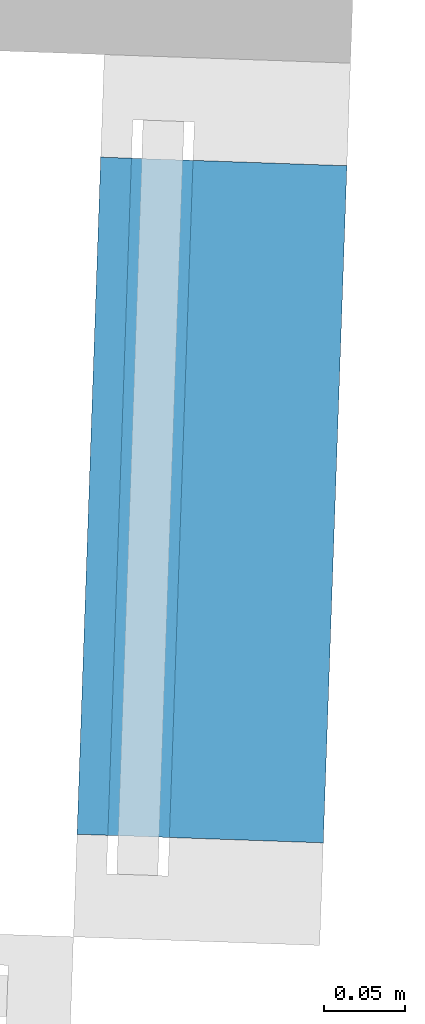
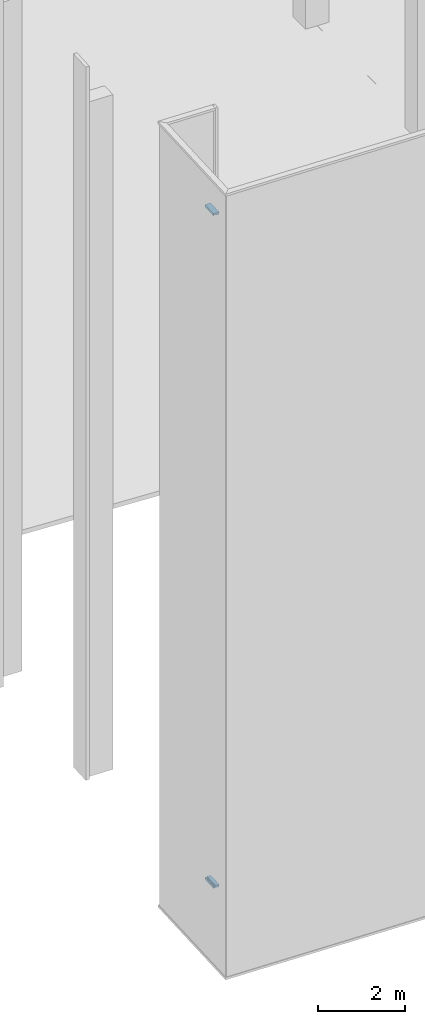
# One storey, part 13 of 44: 2 members, 1 element without a shape of its own.
"""IFC2X3 building model written with IfcOpenShell, lengths in feet."""

import ifcopenshell
import ifcopenshell.guid

model = None  # the IFC model being written
_history = None  # IfcOwnerHistory: only IFC2X3 demands one
_inside = {}  # id of a spatial element -> (the spatial element, [elements in it])
_under = {}  # id of a project, library or spatial element -> (it, [spatial elements below it])
_declared = {}  # id of a project -> (the project, [libraries it declares])
_typed = {}  # id of a type object -> (the type object, [elements of that type])
_made_of = {}  # id of a material, layer set ... -> (it, [elements and type objects made of it])


def new_model(schema):
    """Start an empty IFC model of exactly this schema.

    Asked for "IFC4X3", IfcOpenShell would pick the latest addendum, in which some entities
    have other attributes; the version numbers below select the first issue.
    IFC2X3 requires an IfcOwnerHistory on every rooted entity: one is made here for all.
    """
    global model, _history
    if schema == "IFC4X3":
        model = ifcopenshell.file(schema_version=(4, 3, 0, 0))
    else:
        model = ifcopenshell.file(schema=schema)
    _inside.clear()
    _under.clear()
    _declared.clear()
    _typed.clear()
    _made_of.clear()
    _history = None
    if model.schema == "IFC2X3":
        org = make("IfcOrganization", Name="unknown")
        user = make(
            "IfcPersonAndOrganization",
            ThePerson=make("IfcPerson", FamilyName="unknown"),
            TheOrganization=org,
        )
        app = make(
            "IfcApplication",
            ApplicationDeveloper=org,
            Version="unknown",
            ApplicationFullName="unknown",
            ApplicationIdentifier="unknown",
        )
        _history = make(
            "IfcOwnerHistory",
            OwningUser=user,
            OwningApplication=app,
            ChangeAction="ADDED",
            CreationDate=0,
        )
    return model


def make(cls, **values):
    """One entity of the class cls with the attributes given. An attribute that is None is left unset."""
    return model.create_entity(
        cls, **{name: value for name, value in values.items() if value is not None}
    )


def entity(cls, *values):
    """Any entity or typed value of the class cls, its attributes in the order of the schema. None: left unset."""
    e = model.create_entity(cls)
    for i, value in enumerate(values):
        if value is not None:
            e[i] = value
    return e


def rooted(cls, **values):
    """An entity with a GlobalId (a new one), such as an element, a storey or a relation."""
    return make(cls, GlobalId=ifcopenshell.guid.new(), OwnerHistory=_history, **values)


def si_unit(unit_type, name, prefix=None):
    """IfcSIUnit, for example si_unit("LENGTHUNIT", "METRE", prefix="MILLI")."""
    return make("IfcSIUnit", UnitType=unit_type, Prefix=prefix, Name=name)


def converted_unit(unit_type, name, factor, base, dimensions=None, offset=None):
    """IfcConversionBasedUnit, such as the inch: factor (a typed value) times the base unit."""
    return make(
        "IfcConversionBasedUnit"
        if offset is None
        else "IfcConversionBasedUnitWithOffset",
        ConversionOffset=offset,
        Dimensions=None
        if dimensions is None
        else entity("IfcDimensionalExponents", *dimensions),
        UnitType=unit_type,
        Name=name,
        ConversionFactor=make(
            "IfcMeasureWithUnit", ValueComponent=factor, UnitComponent=base
        ),
    )


def derived_unit(unit_type, elements):
    """IfcDerivedUnit: a product of units, each with its exponent."""
    return make(
        "IfcDerivedUnit",
        Elements=[
            make("IfcDerivedUnitElement", Unit=unit, Exponent=power)
            for unit, power in elements
        ],
        UnitType=unit_type,
    )


def assignment(units):
    """IfcUnitAssignment: the units of a project."""
    return None if units is None else make("IfcUnitAssignment", Units=units)


def point(xyz):
    """IfcCartesianPoint."""
    return None if xyz is None else make("IfcCartesianPoint", Coordinates=xyz)


def direction(xyz):
    """IfcDirection."""
    return None if xyz is None else make("IfcDirection", DirectionRatios=xyz)


def frame(location, z_axis=None, x_axis=None):
    """IfcAxis2Placement3D, a coordinate frame: its origin and axes. An axis left out is left unset."""
    return make(
        "IfcAxis2Placement3D",
        Location=point(location),
        Axis=direction(z_axis),
        RefDirection=direction(x_axis),
    )


def origin():
    """The frame at (0, 0, 0) with its axes left unset."""
    return frame((0.0, 0.0, 0.0))


def place(relative_to, where):
    """IfcLocalPlacement: puts the frame where relative to a parent placement (None: the world)."""
    return make(
        "IfcLocalPlacement", PlacementRelTo=relative_to, RelativePlacement=where
    )


def context(
    kind, dimensions, precision=None, world=None, true_north=None, identifier=None
):
    """IfcGeometricRepresentationContext, for example the 3D "Model" context."""
    return make(
        "IfcGeometricRepresentationContext",
        ContextIdentifier=identifier,
        ContextType=kind,
        CoordinateSpaceDimension=dimensions,
        Precision=precision,
        WorldCoordinateSystem=world,
        TrueNorth=true_north,
    )


def subcontext(parent, identifier, kind, view, scale=None):
    """IfcGeometricRepresentationSubContext, for example "Body" below "Model"."""
    return make(
        "IfcGeometricRepresentationSubContext",
        ContextIdentifier=identifier,
        ContextType=kind,
        ParentContext=parent,
        TargetScale=scale,
        TargetView=view,
    )


def project(units=None, contexts=None):
    """IfcProject with its units and contexts."""
    return rooted(
        "IfcProject",
        Name="project",
        RepresentationContexts=contexts,
        UnitsInContext=assignment(units),
    )


def spatial(cls, under=None, at=None, **own):
    """A site, building, storey or space (cls), placed at a placement, below another one or the project."""
    s = rooted(cls, ObjectPlacement=at, **own)
    if under is not None:
        _under.setdefault(under.id(), (under, []))[1].append(s)
    return s


def polyline(points):
    """IfcPolyline through the points."""
    return make("IfcPolyline", Points=[point(p) for p in points])


def outline(outer, holes=None, kind="AREA"):
    """IfcArbitraryClosedProfileDef: a profile drawn as a closed curve; with holes, ...WithVoids."""
    if holes is None:
        return make("IfcArbitraryClosedProfileDef", ProfileType=kind, OuterCurve=outer)
    return make(
        "IfcArbitraryProfileDefWithVoids",
        ProfileType=kind,
        OuterCurve=outer,
        InnerCurves=holes,
    )


def extrude(swept, where, along, depth):
    """IfcExtrudedAreaSolid: the profile swept, set in the frame where, extruded along a direction by depth."""
    return make(
        "IfcExtrudedAreaSolid",
        SweptArea=swept,
        Position=where,
        ExtrudedDirection=direction(along),
        Depth=depth,
    )


def shape(context_of_items, identifier, shape_type, items):
    """IfcShapeRepresentation: the items that make up one representation, for example the "Body"."""
    return make(
        "IfcShapeRepresentation",
        ContextOfItems=context_of_items,
        RepresentationIdentifier=identifier,
        RepresentationType=shape_type,
        Items=items,
    )


def material(Name=None, Category=None):
    """IfcMaterial."""
    return make("IfcMaterial", Name=Name, Category=Category)


def made_of(thing, what):
    """Note that an element or type object is made of a material, layer set ...; save() writes the relation."""
    if what is not None:
        _made_of.setdefault(what.id(), (what, []))[1].append(thing)
    return thing


def type_object(cls, material=None, **own):
    """A type object (cls), such as IfcWallType, which elements share."""
    return made_of(rooted(cls, **own), material)


def element(
    cls,
    number,
    at=None,
    inside=None,
    cuts=None,
    type_object=None,
    material=None,
    context=None,
    identifier="Body",
    shape_type=None,
    held_by="IfcProductDefinitionShape",
    body=None,
    shapes=None,
    **own,
):
    """One element of the class cls, such as IfcWall. Its Tag is "e" and its number.

    at: its placement. inside: the storey or other place that contains it. cuts: it is an
    opening in that element (IfcRelVoidsElement). A single representation is given by context,
    identifier, shape_type and body (its items); several are given by shapes. held_by: the class
    of the entity that holds the representations. save() writes the other relations.
    """
    e = rooted(cls, Tag="e%d" % number, ObjectPlacement=at, **own)
    if body is not None:
        shapes = [shape(context, identifier, shape_type, body)]
    if shapes is not None:
        e.Representation = make(held_by, Representations=shapes)
    if inside is not None:
        _inside.setdefault(inside.id(), (inside, []))[1].append(e)
    if cuts is not None:
        rooted(
            "IfcRelVoidsElement", RelatingBuildingElement=cuts, RelatedOpeningElement=e
        )
    if type_object is not None:
        _typed.setdefault(type_object.id(), (type_object, []))[1].append(e)
    return made_of(e, material)


def aggregate(whole, parts):
    """IfcRelAggregates: a whole, such as a stair, and the parts it consists of."""
    return rooted("IfcRelAggregates", RelatingObject=whole, RelatedObjects=parts)


def save(model, path):
    """Write the relations noted so far, then the file.

    IfcRelAggregates (storeys below a building ...), IfcRelContainedInSpatialStructure (elements
    in a storey), IfcRelDefinesByType, IfcRelAssociatesMaterial and IfcRelDeclares: one each for
    every whole, place, type object, material and project.
    """
    for whole, parts in _under.values():
        aggregate(whole, parts)
    for where, things in _inside.values():
        rooted(
            "IfcRelContainedInSpatialStructure",
            RelatedElements=things,
            RelatingStructure=where,
        )
    for kind, things in _typed.values():
        rooted("IfcRelDefinesByType", RelatedObjects=things, RelatingType=kind)
    for what, things in _made_of.values():
        rooted("IfcRelAssociatesMaterial", RelatedObjects=things, RelatingMaterial=what)
    for by, libraries in _declared.values():
        rooted("IfcRelDeclares", RelatingContext=by, RelatedDefinitions=libraries)
    model.write(path)


model = new_model("IFC2X3")

# Units and contexts
model_context = context("Model", 3, precision=0.0001, world=origin(), true_north=direction((0.999390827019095, 0.0348994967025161)))
body_context = subcontext(model_context, "Body", "Model", "MODEL_VIEW")
ifc_project = project(units=[converted_unit("LENGTHUNIT", "FOOT", entity("IfcRatioMeasure", 0.3048), si_unit("LENGTHUNIT", "METRE"), dimensions=[1, 0, 0, 0, 0, 0, 0]), converted_unit("AREAUNIT", "SQUARE FOOT", entity("IfcRatioMeasure", 0.09290304), si_unit("AREAUNIT", "SQUARE_METRE"), dimensions=[2, 0, 0, 0, 0, 0, 0]), converted_unit("VOLUMEUNIT", "CUBIC FOOT", entity("IfcRatioMeasure", 0.028316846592), si_unit("VOLUMEUNIT", "CUBIC_METRE"), dimensions=[3, 0, 0, 0, 0, 0, 0]), converted_unit("PLANEANGLEUNIT", "DEGREE", entity("IfcRatioMeasure", 0.0174532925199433), si_unit("PLANEANGLEUNIT", "RADIAN"), dimensions=[0, 0, 0, 0, 0, 0, 0]), si_unit("MASSUNIT", "GRAM", prefix="KILO"), si_unit("TIMEUNIT", "SECOND"), si_unit("FREQUENCYUNIT", "HERTZ"), si_unit("THERMODYNAMICTEMPERATUREUNIT", "DEGREE_CELSIUS"), derived_unit("THERMALTRANSMITTANCEUNIT", [(si_unit("MASSUNIT", "GRAM", prefix="KILO"), 1), (si_unit("THERMODYNAMICTEMPERATUREUNIT", "KELVIN"), -1), (si_unit("TIMEUNIT", "SECOND"), -3)]), derived_unit("VOLUMETRICFLOWRATEUNIT", [(si_unit("LENGTHUNIT", "METRE"), 3), (si_unit("TIMEUNIT", "SECOND"), -1)]), si_unit("ELECTRICCURRENTUNIT", "AMPERE"), si_unit("ELECTRICVOLTAGEUNIT", "VOLT"), si_unit("POWERUNIT", "WATT"), si_unit("FORCEUNIT", "NEWTON"), si_unit("ILLUMINANCEUNIT", "LUX"), si_unit("LUMINOUSFLUXUNIT", "LUMEN"), si_unit("LUMINOUSINTENSITYUNIT", "CANDELA"), derived_unit("USERDEFINED", [(si_unit("MASSUNIT", "GRAM", prefix="KILO"), -1), (si_unit("LENGTHUNIT", "METRE"), -2), (si_unit("TIMEUNIT", "SECOND"), 3), (si_unit("LUMINOUSFLUXUNIT", "LUMEN"), 1)]), derived_unit("LINEARVELOCITYUNIT", [(si_unit("LENGTHUNIT", "METRE"), 1), (si_unit("TIMEUNIT", "SECOND"), -1)]), si_unit("PRESSUREUNIT", "PASCAL"), derived_unit("USERDEFINED", [(si_unit("LENGTHUNIT", "METRE"), -2), (si_unit("MASSUNIT", "GRAM", prefix="KILO"), 1), (si_unit("TIMEUNIT", "SECOND"), -2)])], contexts=[model_context])

# Site, building, storey
site_placement = place(None, frame((892.518771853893, 322.38689265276, 0.00393700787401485), z_axis=(0.0, 0.0, 1.0), x_axis=(0.0348994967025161, 0.999390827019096, 0.0)))
site = spatial("IfcSite", under=ifc_project, at=site_placement, Name="Default", CompositionType="ELEMENT")
building_placement = place(site_placement, origin())
building = spatial("IfcBuilding", under=site, at=building_placement, CompositionType="ELEMENT")
storey_placement = place(building_placement, frame((0.0, 0.0, 544.75)))
storey = spatial("IfcBuildingStorey", under=building, at=storey_placement, Name="Exist Garage - Ground Level", CompositionType="ELEMENT", Elevation=544.75)

# Curtain wall, members
curtain_wall_type = type_object("IfcCurtainWallType", Name="Curtain Wall:(Existing) Curtainwall - Blank", PredefinedType="NOTDEFINED")
curtain_wall_placement = place(storey_placement, frame((0.0, 0.0, -544.75)))
curtain_wall = element("IfcCurtainWall", 1, at=curtain_wall_placement, inside=storey, type_object=curtain_wall_type, Name="Curtain Wall:(Existing) Curtainwall - Blank", ObjectType="Curtain Wall:(Existing) Curtainwall - Blank")
ifc_material = material(Name="Metal - Aluminum")
member_1_placement = place(curtain_wall_placement, frame((0.0, 0.0, 544.75)))
member_1 = element("IfcMember", 2, at=member_1_placement, material=ifc_material, Name="Curtain Wall:(Existing) Curtainwall - Blank", ObjectType="Curtain Wall:(Existing) Curtainwall - Blank", context=body_context, shape_type="SweptSolid", body=[
    extrude(outline(polyline([(-0.136718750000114, -0.312499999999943), (0.0716145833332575, -0.312499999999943), (0.0716145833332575, 0.0), (-0.00651041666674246, 0.0), (-0.00651041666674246, 0.125000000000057), (0.0716145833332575, 0.125000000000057), (0.0716145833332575, 0.187500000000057), (-0.136718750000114, 0.187500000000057), (-0.136718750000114, -0.312499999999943)])), frame((-173.156079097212, 456.243120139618, 62.1132812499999), z_axis=(1.0, 0.0, 0.0), x_axis=(0.0, 0.0, -1.0)), (0.0, 0.0, 1.0), 1.37500000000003),
])
member_2_placement = place(curtain_wall_placement, frame((0.0, 0.0, 544.75)))
member_2 = element("IfcMember", 3, at=member_2_placement, material=ifc_material, Name="Curtain Wall:(Existing) Curtainwall - Blank", ObjectType="Curtain Wall:(Existing) Curtainwall - Blank", context=body_context, shape_type="SweptSolid", body=[
    extrude(outline(polyline([(-0.0716145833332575, -0.187500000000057), (0.136718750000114, -0.187500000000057), (0.136718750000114, 0.312499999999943), (-0.0716145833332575, 0.312499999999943), (-0.0716145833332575, 0.0), (0.00651041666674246, 0.0), (0.00651041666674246, -0.125000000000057), (-0.0716145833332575, -0.125000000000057), (-0.0716145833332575, -0.187500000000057)])), frame((-171.781079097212, 456.243120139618, 0.136718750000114), z_axis=(-1.0, 0.0, 0.0), x_axis=(0.0, 0.0, -1.0)), (0.0, 0.0, 1.0), 1.37500000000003),
])
aggregate(curtain_wall, [member_1, member_2])

save(model, "model.ifc")
